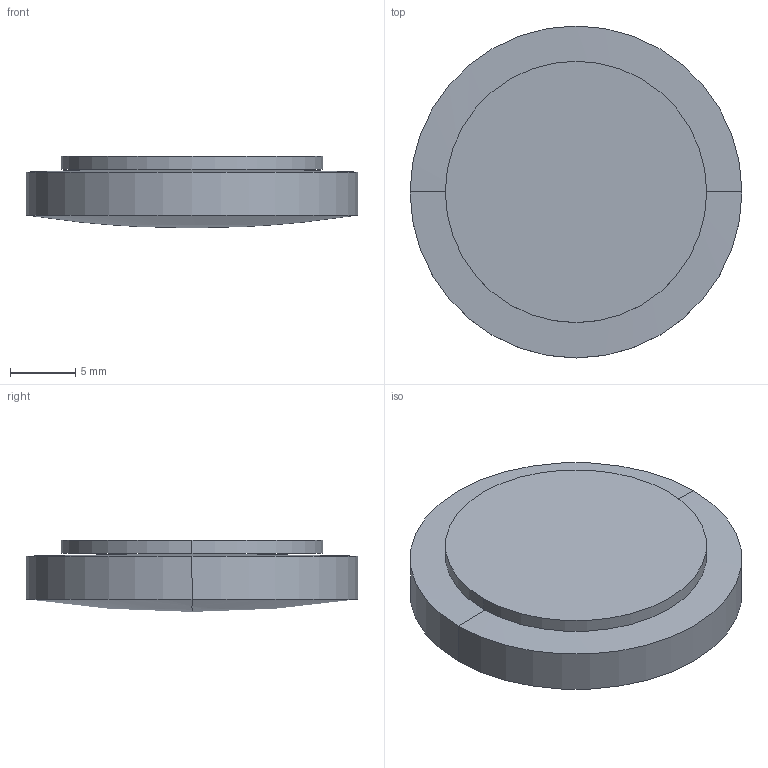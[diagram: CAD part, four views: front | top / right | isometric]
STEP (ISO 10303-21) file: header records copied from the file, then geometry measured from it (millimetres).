
FILE_DESCRIPTION(('STEP AP214'),'1');
FILE_NAME('LLR-25160.STEP','2020-03-09T17:41:58',(' '),(' '),'Spatial InterOp 3D',' ',' ');
FILE_SCHEMA(('AUTOMOTIVE_DESIGN { 1 0 10303 214 1 1 1 1 }'));
Length unit declared in the file: millimetre
Products named in the file (1): 1
Bounding box: 25.4 x 25.4 x 5.5 mm (x, y, z)
Volume: 2289.8 mm3; surface area: 1970.7 mm2
Topology: 2 solids, 2 shells, 10 faces, 20 edges, 10 vertices
Faces by surface type: sphere 4, cylinder 4, plane 2
Entity records: 255 total; most frequent: DIRECTION 52, CARTESIAN_POINT 38, ORIENTED_EDGE 32, AXIS2_PLACEMENT_3D 24, EDGE_CURVE 16, CIRCLE 12, ADVANCED_FACE 10, FACE_OUTER_BOUND 10
